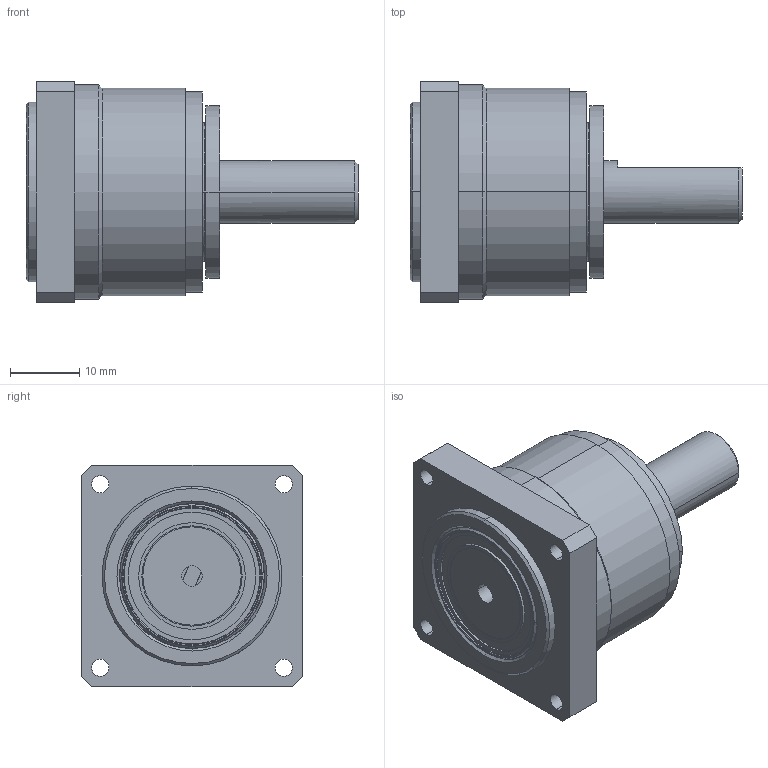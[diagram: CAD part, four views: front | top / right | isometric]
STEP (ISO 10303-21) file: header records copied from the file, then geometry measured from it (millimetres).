
FILE_DESCRIPTION (( 'STEP AP214' ), '1' );
FILE_NAME ('CSF-08-xxx-2HX-J.STEP', '2022-05-09T06:30:19', ( 'PC' ), ( 'Microsoft' ), 'SwSTEP 2.0', 'SolidWorks 2016', '' );
FILE_SCHEMA (( 'AUTOMOTIVE_DESIGN' ));
Length unit declared in the file: millimetre
Products named in the file (15): 躇猾蚐猾20x26x4_蕼偞; CSF-08蝠脫粣創_蕼偞; CSF-08-交叉轴承内圈; CSF-08-交叉轴承外圈; CSF-08-2HX-J-01_蕼偞; CSF-08-xxx-2HX-J; CSF-08-2HX-J-疏楷汜ん.SLCASM_蕼偞; 柔性轴承19.63x14.22x3.3x3.1.SLCPRT_預設; CSF-08-2HX-J-05.SLCPRT_蕼偞; CSF-08-1U-D-06_蕼偞; 十字槽沉头螺钉  M3×6_預設; 种隊 2.5x5_蕼偞; CSF-08-2HX-J-04_蕼偞; CSF-08-2HX-J-03_蕼偞; CSF-08-2HX-J-02_蕼偞
Assembly tree (18 placements, depth 3):
  CSF-08-xxx-2HX-J
    CSF-08-2HX-J-01_蕼偞
    CSF-08蝠脫粣創_蕼偞
      CSF-08-交叉轴承外圈
      CSF-08-交叉轴承内圈
    躇猾蚐猾20x26x4_蕼偞
    CSF-08-2HX-J-02_蕼偞
    CSF-08-2HX-J-03_蕼偞
    CSF-08-2HX-J-04_蕼偞
    种隊 2.5x5_蕼偞  x2
    十字槽沉头螺钉  M3×6_預設  x4
    CSF-08-1U-D-06_蕼偞
    CSF-08-2HX-J-疏楷汜ん.SLCASM_蕼偞
      CSF-08-2HX-J-05.SLCPRT_蕼偞
      柔性轴承19.63x14.22x3.3x3.1.SLCPRT_預設
Bounding box: 48 x 32 x 32 mm (x, y, z)
Volume: 19637 mm3; surface area: 18319.1 mm2
Topology: 16 solids, 16 shells, 501 faces, 1079 edges, 626 vertices
Faces by surface type: plane 202, cylinder 162, cone 107, torus 22, bspline 8
Entity records: 10964 total; most frequent: DIRECTION 1896, CARTESIAN_POINT 1882, ORIENTED_EDGE 1550, AXIS2_PLACEMENT_3D 775, EDGE_CURVE 775, VERTEX_POINT 471, EDGE_LOOP 426, CIRCLE 405
